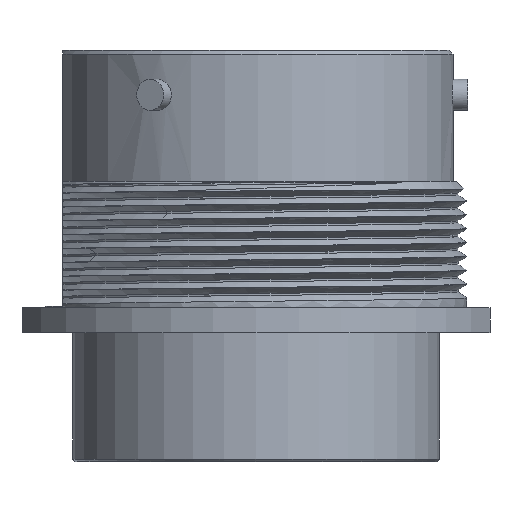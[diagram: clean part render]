
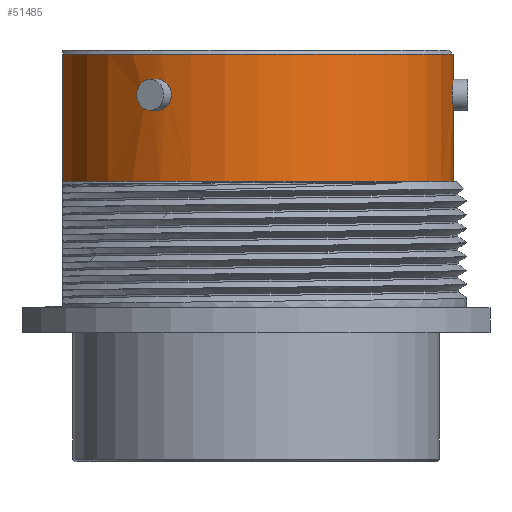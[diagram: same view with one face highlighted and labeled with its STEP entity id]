
A CAD part, left-side view. The second image highlights one B-rep face of the part: STEP entity #51485.
In plain terms, the highlighted cylindrical face has radius 20.053 mm (diameter 40.107 mm), a partial arc.
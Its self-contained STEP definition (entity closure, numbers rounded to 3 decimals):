
#135=CARTESIAN_POINT('',(0.,0.,-13.335));
#136=DIRECTION('',(0.,0.,-1.));
#137=DIRECTION('',(0.197,0.98,0.));
#138=AXIS2_PLACEMENT_3D('',#135,#136,#137);
#144=DIRECTION('',(0.,0.,1.));
#145=VECTOR('',#144,12.954);
#146=CARTESIAN_POINT('',(-3.952,19.66,-13.335));
#147=LINE('',#146,#145);
#151=DIRECTION('',(0.,0.,1.));
#152=VECTOR('',#151,12.954);
#153=CARTESIAN_POINT('',(3.952,19.66,-13.335));
#154=LINE('',#153,#152);
#158=CARTESIAN_POINT('',(-17.367,10.027,-2.934));
#159=CARTESIAN_POINT('',(-17.296,10.148,-2.934));
#160=CARTESIAN_POINT('',(-17.159,10.381,-2.969));
#161=CARTESIAN_POINT('',(-16.953,10.714,-3.129));
#162=CARTESIAN_POINT('',(-16.772,10.993,-3.385));
#163=CARTESIAN_POINT('',(-16.63,11.207,-3.718));
#164=CARTESIAN_POINT('',(-16.539,11.34,-4.105));
#165=CARTESIAN_POINT('',(-16.508,11.385,-4.521));
#166=CARTESIAN_POINT('',(-16.539,11.34,-4.937));
#167=CARTESIAN_POINT('',(-16.63,11.207,-5.325));
#168=CARTESIAN_POINT('',(-16.772,10.993,-5.658));
#169=CARTESIAN_POINT('',(-16.953,10.713,-5.913));
#170=CARTESIAN_POINT('',(-17.159,10.381,-6.073));
#171=CARTESIAN_POINT('',(-17.296,10.148,-6.109));
#172=CARTESIAN_POINT('',(-17.367,10.027,-6.109));
#177=CARTESIAN_POINT('',(-17.367,10.027,-6.109));
#178=CARTESIAN_POINT('',(-17.437,9.905,-6.109));
#179=CARTESIAN_POINT('',(-17.57,9.669,-6.073));
#180=CARTESIAN_POINT('',(-17.755,9.325,-5.913));
#181=CARTESIAN_POINT('',(-17.907,9.028,-5.657));
#182=CARTESIAN_POINT('',(-18.02,8.799,-5.324));
#183=CARTESIAN_POINT('',(-18.09,8.653,-4.937));
#184=CARTESIAN_POINT('',(-18.114,8.604,-4.521));
#185=CARTESIAN_POINT('',(-18.09,8.654,-4.105));
#186=CARTESIAN_POINT('',(-18.02,8.799,-3.717));
#187=CARTESIAN_POINT('',(-17.907,9.029,-3.384));
#188=CARTESIAN_POINT('',(-17.755,9.325,-3.129));
#189=CARTESIAN_POINT('',(-17.57,9.669,-2.969));
#190=CARTESIAN_POINT('',(-17.437,9.905,-2.934));
#191=CARTESIAN_POINT('',(-17.367,10.027,-2.934));
#196=CARTESIAN_POINT('',(17.367,10.027,-2.934));
#197=CARTESIAN_POINT('',(17.437,9.905,-2.934));
#198=CARTESIAN_POINT('',(17.57,9.669,-2.969));
#199=CARTESIAN_POINT('',(17.755,9.325,-3.129));
#200=CARTESIAN_POINT('',(17.907,9.028,-3.385));
#201=CARTESIAN_POINT('',(18.02,8.799,-3.718));
#202=CARTESIAN_POINT('',(18.09,8.653,-4.105));
#203=CARTESIAN_POINT('',(18.114,8.604,-4.521));
#204=CARTESIAN_POINT('',(18.09,8.654,-4.937));
#205=CARTESIAN_POINT('',(18.02,8.799,-5.325));
#206=CARTESIAN_POINT('',(17.907,9.029,-5.658));
#207=CARTESIAN_POINT('',(17.755,9.325,-5.913));
#208=CARTESIAN_POINT('',(17.57,9.669,-6.073));
#209=CARTESIAN_POINT('',(17.437,9.905,-6.109));
#210=CARTESIAN_POINT('',(17.367,10.027,-6.109));
#215=CARTESIAN_POINT('',(17.367,10.027,-6.109));
#216=CARTESIAN_POINT('',(17.296,10.148,-6.109));
#217=CARTESIAN_POINT('',(17.159,10.381,-6.073));
#218=CARTESIAN_POINT('',(16.953,10.714,-5.913));
#219=CARTESIAN_POINT('',(16.772,10.993,-5.657));
#220=CARTESIAN_POINT('',(16.63,11.207,-5.324));
#221=CARTESIAN_POINT('',(16.539,11.34,-4.937));
#222=CARTESIAN_POINT('',(16.508,11.385,-4.521));
#223=CARTESIAN_POINT('',(16.539,11.34,-4.105));
#224=CARTESIAN_POINT('',(16.63,11.207,-3.717));
#225=CARTESIAN_POINT('',(16.772,10.993,-3.384));
#226=CARTESIAN_POINT('',(16.953,10.713,-3.129));
#227=CARTESIAN_POINT('',(17.159,10.381,-2.969));
#228=CARTESIAN_POINT('',(17.296,10.148,-2.934));
#229=CARTESIAN_POINT('',(17.367,10.027,-2.934));
#234=CARTESIAN_POINT('',(0.,-20.053,-6.109));
#235=CARTESIAN_POINT('',(0.14,-20.053,-6.109));
#236=CARTESIAN_POINT('',(0.411,-20.05,
-6.073));
#237=CARTESIAN_POINT('',(0.802,-20.038,
-5.912));
#238=CARTESIAN_POINT('',(1.134,-20.022,-5.657));
#239=CARTESIAN_POINT('',(1.391,-20.005,-5.324));
#240=CARTESIAN_POINT('',(1.551,-19.993,-4.937));
#241=CARTESIAN_POINT('',(1.606,-19.989,-4.52));
#242=CARTESIAN_POINT('',(1.551,-19.993,-4.105));
#243=CARTESIAN_POINT('',(1.389,-20.005,-3.716));
#244=CARTESIAN_POINT('',(1.134,-20.022,-3.384));
#245=CARTESIAN_POINT('',(0.8,-20.038,
-3.128));
#246=CARTESIAN_POINT('',(0.411,-20.05,
-2.969));
#247=CARTESIAN_POINT('',(0.14,-20.053,-2.934));
#248=CARTESIAN_POINT('',(0.,-20.053,-2.934));
#253=CARTESIAN_POINT('',(0.,-20.053,-2.934));
#254=CARTESIAN_POINT('',(-0.14,-20.053,-2.934));
#255=CARTESIAN_POINT('',(-0.411,-20.05,
-2.969));
#256=CARTESIAN_POINT('',(-0.802,-20.038,
-3.13));
#257=CARTESIAN_POINT('',(-1.134,-20.022,
-3.385));
#258=CARTESIAN_POINT('',(-1.391,-20.005,
-3.718));
#259=CARTESIAN_POINT('',(-1.551,-19.993,
-4.105));
#260=CARTESIAN_POINT('',(-1.606,-19.989,
-4.522));
#261=CARTESIAN_POINT('',(-1.551,-19.993,
-4.937));
#262=CARTESIAN_POINT('',(-1.389,-20.005,
-5.326));
#263=CARTESIAN_POINT('',(-1.134,-20.022,
-5.657));
#264=CARTESIAN_POINT('',(-0.8,-20.038,
-5.914));
#265=CARTESIAN_POINT('',(-0.411,-20.05,
-6.073));
#266=CARTESIAN_POINT('',(-0.14,-20.053,-6.109));
#267=CARTESIAN_POINT('',(0.,-20.053,-6.109));
#7736=CARTESIAN_POINT('',(0.,0.,-0.381));
#7737=DIRECTION('',(0.,0.,-1.));
#7738=DIRECTION('',(0.197,0.98,0.));
#7739=AXIS2_PLACEMENT_3D('',#7736,#7737,#7738);
#43745=VERTEX_POINT('',#234);
#43746=VERTEX_POINT('',#248);
#43751=VERTEX_POINT('',#196);
#43752=VERTEX_POINT('',#210);
#43757=VERTEX_POINT('',#158);
#43758=VERTEX_POINT('',#172);
#43844=CARTESIAN_POINT('',(-3.952,19.66,-13.335));
#43846=VERTEX_POINT('',#43844);
#44266=CARTESIAN_POINT('',(3.952,19.66,-13.335));
#44267=VERTEX_POINT('',#44266);
#44268=CARTESIAN_POINT('',(3.952,19.66,-0.381));
#44269=VERTEX_POINT('',#44268);
#44274=CARTESIAN_POINT('',(-3.952,19.66,-0.381));
#44275=VERTEX_POINT('',#44274);
#51452=CARTESIAN_POINT('',(0.,0.,-43.926));
#51453=DIRECTION('',(0.,0.,1.));
#51454=DIRECTION('',(0.,1.,0.));
#51455=AXIS2_PLACEMENT_3D('',#51452,#51453,#51454);
#51456=CYLINDRICAL_SURFACE('',#51455,20.053);
#51458=ORIENTED_EDGE('',*,*,#51457,.T.);
#51460=ORIENTED_EDGE('',*,*,#51459,.T.);
#51462=ORIENTED_EDGE('',*,*,#51461,.F.);
#51464=ORIENTED_EDGE('',*,*,#51463,.F.);
#51465=EDGE_LOOP('',(#51458,#51460,#51462,#51464));
#51466=FACE_OUTER_BOUND('',#51465,.F.);
#51468=ORIENTED_EDGE('',*,*,#51467,.T.);
#51470=ORIENTED_EDGE('',*,*,#51469,.T.);
#51471=EDGE_LOOP('',(#51468,#51470));
#51472=FACE_BOUND('',#51471,.F.);
#51474=ORIENTED_EDGE('',*,*,#51473,.T.);
#51476=ORIENTED_EDGE('',*,*,#51475,.T.);
#51477=EDGE_LOOP('',(#51474,#51476));
#51478=FACE_BOUND('',#51477,.F.);
#51480=ORIENTED_EDGE('',*,*,#51479,.T.);
#51482=ORIENTED_EDGE('',*,*,#51481,.T.);
#51483=EDGE_LOOP('',(#51480,#51482));
#51484=FACE_BOUND('',#51483,.F.);
#139=CIRCLE('',#138,20.053);
#173=B_SPLINE_CURVE_WITH_KNOTS('',3,(#158,#159,#160,#161,#162,#163,#164,#165,
#166,#167,#168,#169,#170,#171,#172),.UNSPECIFIED.,.F.,.F.,(4,1,1,1,1,1,1,1,1,1,
1,1,4),(0.,0.083,0.167,0.25,0.333,
0.417,0.5,0.583,0.667,0.75,
0.833,0.917,1.),.UNSPECIFIED.);
#192=B_SPLINE_CURVE_WITH_KNOTS('',3,(#177,#178,#179,#180,#181,#182,#183,#184,
#185,#186,#187,#188,#189,#190,#191),.UNSPECIFIED.,.F.,.F.,(4,1,1,1,1,1,1,1,1,1,
1,1,4),(0.,0.083,0.167,0.25,0.333,
0.417,0.5,0.583,0.667,0.75,
0.833,0.917,1.),.UNSPECIFIED.);
#211=B_SPLINE_CURVE_WITH_KNOTS('',3,(#196,#197,#198,#199,#200,#201,#202,#203,
#204,#205,#206,#207,#208,#209,#210),.UNSPECIFIED.,.F.,.F.,(4,1,1,1,1,1,1,1,1,1,
1,1,4),(0.,0.083,0.167,0.25,0.333,
0.417,0.5,0.583,0.667,0.75,
0.833,0.917,1.),.UNSPECIFIED.);
#230=B_SPLINE_CURVE_WITH_KNOTS('',3,(#215,#216,#217,#218,#219,#220,#221,#222,
#223,#224,#225,#226,#227,#228,#229),.UNSPECIFIED.,.F.,.F.,(4,1,1,1,1,1,1,1,1,1,
1,1,4),(0.,0.083,0.167,0.25,0.333,
0.417,0.5,0.583,0.667,0.75,
0.833,0.917,1.),.UNSPECIFIED.);
#249=B_SPLINE_CURVE_WITH_KNOTS('',3,(#234,#235,#236,#237,#238,#239,#240,#241,
#242,#243,#244,#245,#246,#247,#248),.UNSPECIFIED.,.F.,.F.,(4,1,1,1,1,1,1,1,1,1,
1,1,4),(0.,0.083,0.167,0.25,0.333,
0.417,0.5,0.583,0.667,0.75,
0.833,0.917,1.),.UNSPECIFIED.);
#268=B_SPLINE_CURVE_WITH_KNOTS('',3,(#253,#254,#255,#256,#257,#258,#259,#260,
#261,#262,#263,#264,#265,#266,#267),.UNSPECIFIED.,.F.,.F.,(4,1,1,1,1,1,1,1,1,1,
1,1,4),(0.,0.083,0.167,0.25,0.333,
0.417,0.5,0.583,0.667,0.75,
0.833,0.917,1.),.UNSPECIFIED.);
#7740=CIRCLE('',#7739,20.053);
#51457=EDGE_CURVE('',#44267,#43846,#139,.T.);
#51459=EDGE_CURVE('',#43846,#44275,#147,.T.);
#51461=EDGE_CURVE('',#44269,#44275,#7740,.T.);
#51463=EDGE_CURVE('',#44267,#44269,#154,.T.);
#51467=EDGE_CURVE('',#43757,#43758,#173,.T.);
#51469=EDGE_CURVE('',#43758,#43757,#192,.T.);
#51473=EDGE_CURVE('',#43751,#43752,#211,.T.);
#51475=EDGE_CURVE('',#43752,#43751,#230,.T.);
#51479=EDGE_CURVE('',#43745,#43746,#249,.T.);
#51481=EDGE_CURVE('',#43746,#43745,#268,.T.);
#51485=ADVANCED_FACE('',(#51466,#51472,#51478,#51484),#51456,.T.);
